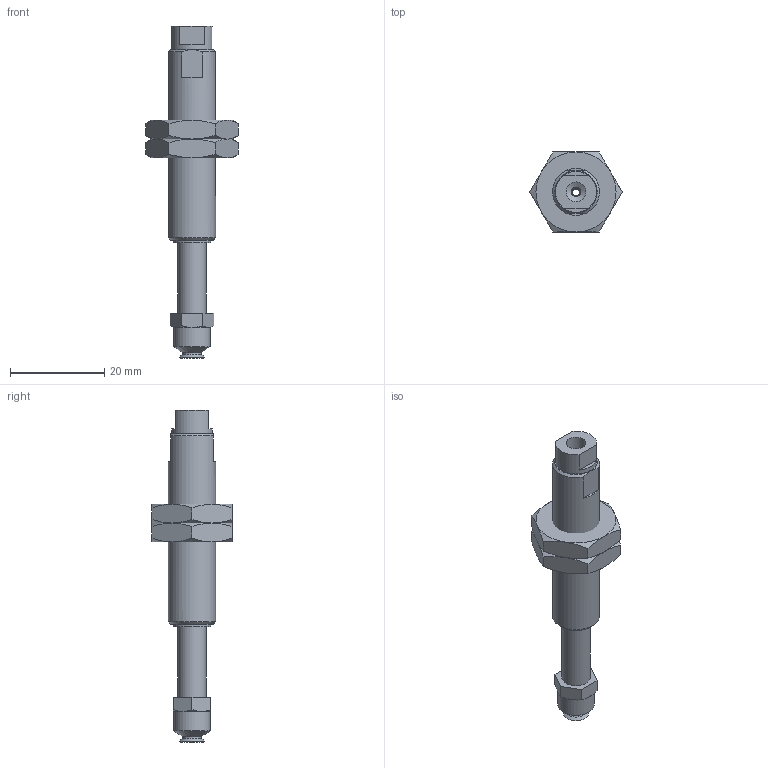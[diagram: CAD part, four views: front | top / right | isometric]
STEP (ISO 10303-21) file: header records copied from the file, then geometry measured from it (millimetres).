
FILE_DESCRIPTION(('STEP AP203'),'1');
FILE_NAME('-LB.stp','2025-10-10T05:46:37',(' '),(' '),'Spatial InterOp 3D',' ',' ');
FILE_SCHEMA(('CONFIG_CONTROL_DESIGN'));
Length unit declared in the file: millimetre
Products named in the file (8): BNABPFTH-5A-15-※-LB; NUT; __; BODY; TN-PS-10-M5; Setting screws-TN-PS-10-M5; BPFG-5A-※
Assembly tree (7 placements, depth 3):
  BNABPFTH-5A-15-※-LB
    NUT
    NUT
    __
    BODY
    TN-PS-10-M5
      Setting screws-TN-PS-10-M5
    BPFG-5A-※
Bounding box: 19.63 x 17 x 70.5 mm (x, y, z)
Volume: 5456.9 mm3; surface area: 4506.1 mm2
Topology: 6 solids, 6 shells, 125 faces, 266 edges, 160 vertices
Faces by surface type: plane 57, cone 41, cylinder 18, torus 8, bspline 1
Full cylindrical faces by diameter (mm): 1.4 x1, 2 x2, 3.9 x1, 4 x2, 4.2 x2, 5 x1, 6 x3, 7.7 x1, 8 x1, 8.7 x1, 9 x2, 10 x1
Entity records: 3617 total; most frequent: CARTESIAN_POINT 765, DIRECTION 518, ORIENTED_EDGE 442, AXIS2_PLACEMENT_3D 228, EDGE_CURVE 221, EDGE_LOOP 180, FACE_OUTER_BOUND 152, VERTEX_POINT 151
